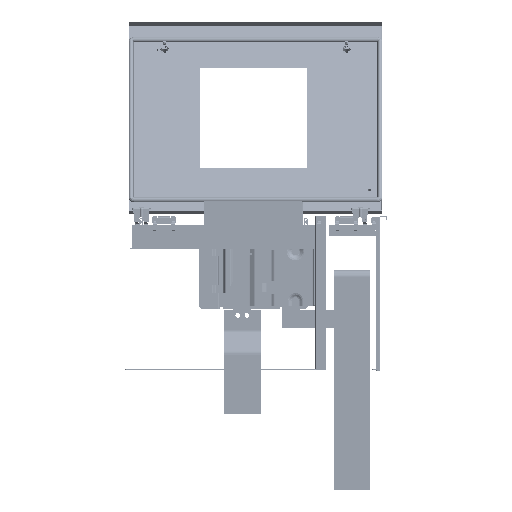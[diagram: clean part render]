
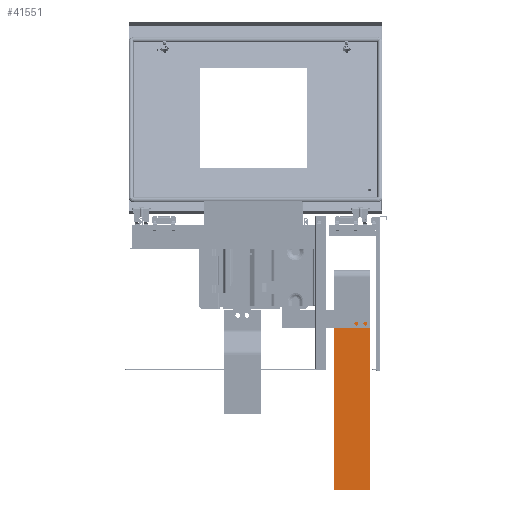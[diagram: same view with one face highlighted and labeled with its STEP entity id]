
A CAD part, left-side view. The second image highlights one B-rep face of the part: STEP entity #41551.
In plain terms, the highlighted planar face has unit normal (-1, 0, 0).
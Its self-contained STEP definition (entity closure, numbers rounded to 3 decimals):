
#41061=CARTESIAN_POINT(' ',(-5.,0.,-246.75));
#41066=DIRECTION(' ',(0.,0.,1.));
#41071=VECTOR(' ',#41066,1.);
#41076=LINE('',#41061,#41071);
#41081=CARTESIAN_POINT(' ',(-5.,0.,-246.75));
#41082=VERTEX_POINT(' ',#41081);
#41086=CARTESIAN_POINT(' ',(-5.,0.,246.75));
#41087=VERTEX_POINT(' ',#41086);
#41091=EDGE_CURVE(' ',#41082,#41087,#41076,.T.);
#41211=CARTESIAN_POINT(' ',(-5.,100.,-246.75));
#41216=DIRECTION(' ',(0.,-1.,0.));
#41221=VECTOR(' ',#41216,1.);
#41226=LINE('',#41211,#41221);
#41231=CARTESIAN_POINT(' ',(-5.,100.,-246.75));
#41232=VERTEX_POINT(' ',#41231);
#41236=EDGE_CURVE(' ',#41232,#41082,#41226,.T.);
#41321=CARTESIAN_POINT(' ',(-5.,100.,-246.75));
#41326=DIRECTION(' ',(0.,0.,1.));
#41331=VECTOR(' ',#41326,1.);
#41336=LINE('',#41321,#41331);
#41341=CARTESIAN_POINT(' ',(-5.,100.,246.75));
#41342=VERTEX_POINT(' ',#41341);
#41346=EDGE_CURVE(' ',#41232,#41342,#41336,.T.);
#41451=CARTESIAN_POINT(' ',(-5.,100.,246.75));
#41456=DIRECTION(' ',(0.,-1.,0.));
#41461=VECTOR(' ',#41456,1.);
#41466=LINE('',#41451,#41461);
#41471=EDGE_CURVE(' ',#41342,#41087,#41466,.T.);
#41496=DIRECTION(' ',(-1.,0.,-0.));
#41501=CARTESIAN_POINT(' ',(-5.,0.,246.75));
#41506=DIRECTION(' ',(0.,1.,0.));
#41511=AXIS2_PLACEMENT_3D(' ',#41501,#41496,#41506);
#41516=PLANE('NONE',#41511);
#41521=ORIENTED_EDGE(' ',*,*,#41091,.T.);
#41526=ORIENTED_EDGE(' ',*,*,#41471,.F.);
#41531=ORIENTED_EDGE(' ',*,*,#41346,.F.);
#41536=ORIENTED_EDGE(' ',*,*,#41236,.T.);
#41541=EDGE_LOOP(' ',(#41521,#41526,#41531,#41536));
#41546=FACE_OUTER_BOUND(' ',#41541,.T.);
#41551=ADVANCED_FACE('NONE',(#41546),#41516,.T.);
